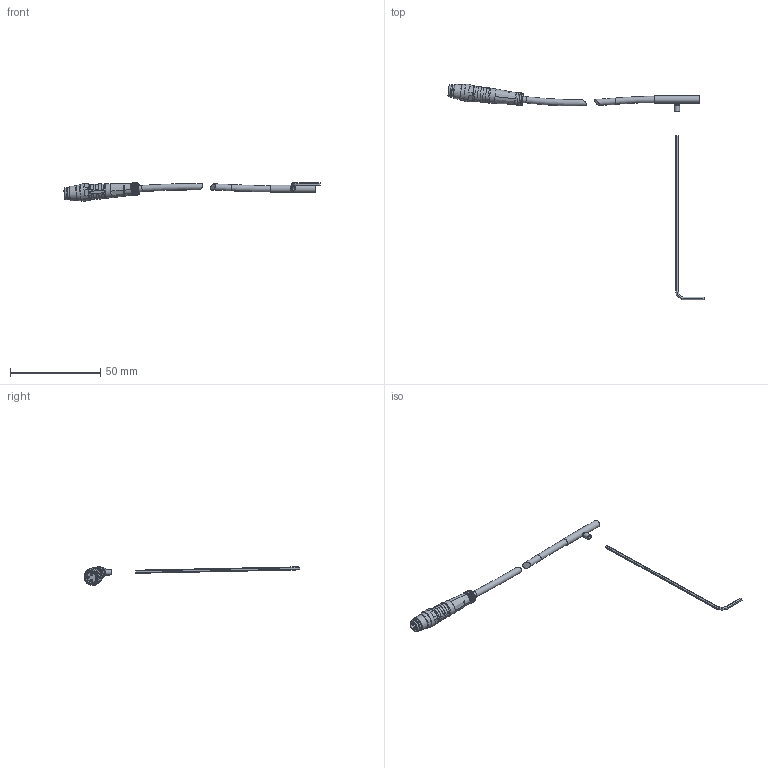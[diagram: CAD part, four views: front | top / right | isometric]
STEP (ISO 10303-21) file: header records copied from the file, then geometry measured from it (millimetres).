
FILE_DESCRIPTION(/* description */ (''),/* implementation_level */ '2;1');
FILE_NAME(/* name */ 'T:\CAD\Standard\AC\G-AC063\3D ZG-AC-IN2-300-M8.stp',/* time_stamp */ '2023-07-12T14:40:08+02:00',/* author */ ('vbednarz'),/* organization */ (''),/* preprocessor_version */ 'ST-DEVELOPER v17',/* originating_system */ 'Autodesk Inventor 2018',/* authorisation */ '');
FILE_SCHEMA (('AUTOMOTIVE_DESIGN { 1 0 10303 214 3 1 1 }'));
Length unit declared in the file: millimetre
Products named in the file (1): 3D ZG-AC-IN2-300-M8.Stp
Bounding box: 141.82 x 119.61 x 10.38 mm (x, y, z)
Volume: 3050.5 mm3; surface area: 3063.7 mm2
Topology: 4 solids, 4 shells, 167 faces, 417 edges, 273 vertices
Faces by surface type: plane 81, cylinder 54, cone 19, torus 8, sphere 3, bspline 2
Full cylindrical faces by diameter (mm): 1 x3, 1.5 x1, 3 x1, 3.5 x1, 4 x1, 5.8 x1, 5.9 x1, 6.5 x1, 6.501 x4, 6.9 x1, 8 x2, 8.4 x1, 8.8 x1, 9.6 x1
Entity records: 7226 total; most frequent: CARTESIAN_POINT 3005, DIRECTION 841, ORIENTED_EDGE 828, EDGE_CURVE 414, AXIS2_PLACEMENT_3D 324, VERTEX_POINT 273, LINE 193, VECTOR 193
